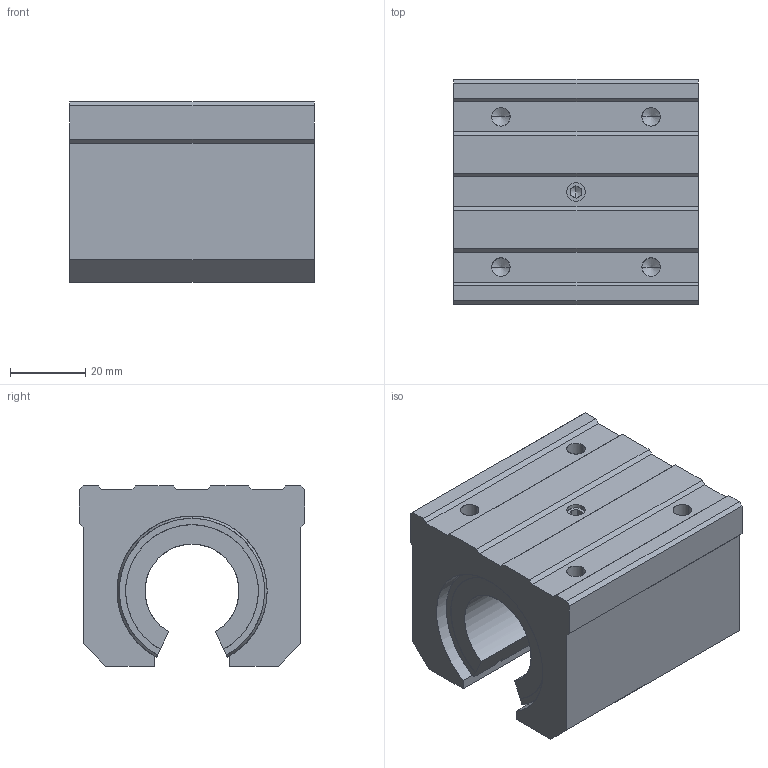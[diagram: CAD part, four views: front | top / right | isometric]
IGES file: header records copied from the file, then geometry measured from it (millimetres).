
Global section: file name: No Iges File Name specified; native system: AutoDesk Inventor R10; preprocessor: AutoDesk Inventor Iges Exporter R10; author: No Author specified; organization: No Organization specified; date: 20101221.091039; units: millimetre
Bounding box: 65 x 60 x 48 mm (x, y, z)
Surface area: 24621.6 mm2 (no closed solid volume)
Topology: 0 solids, 0 shells, 94 faces, 652 edges, 642 vertices
Faces by surface type: bspline 94
